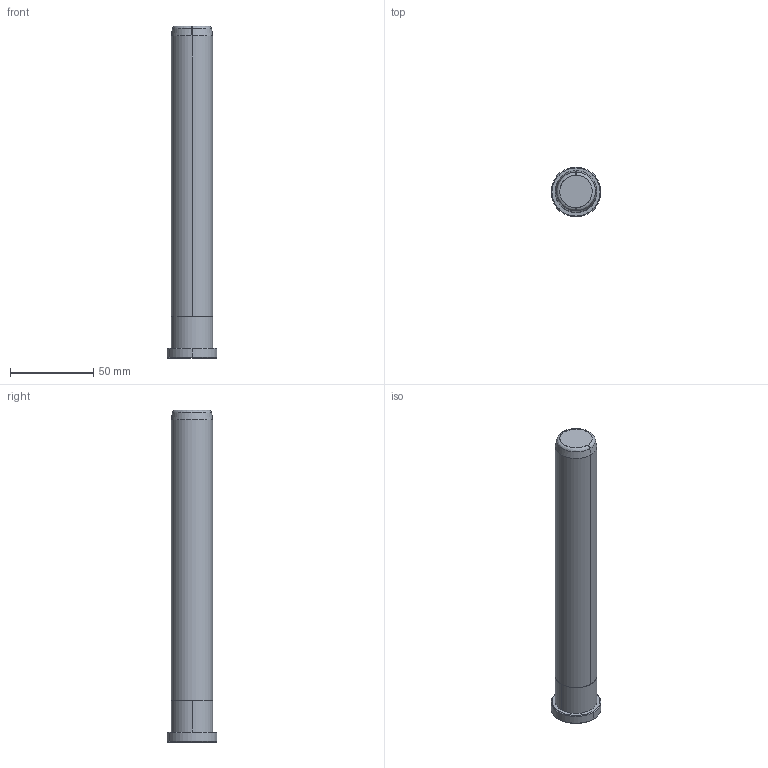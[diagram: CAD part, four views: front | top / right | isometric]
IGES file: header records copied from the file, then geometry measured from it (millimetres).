
Start section: START RECORD GO HERE.
Global section: file name: B85825200.igs; native system: DASSAULT SYSTEMES CATIA V5 R20 - www.3ds.com; preprocessor: CATIA Version 5 Release 20 ; author: Utente; organization: NB04-ASUS; date: 20200419.205213; units: millimetre
Bounding box: 30 x 30 x 200 mm (x, y, z)
Surface area: 17026.8 mm2 (no closed solid volume)
Topology: 0 solids, 0 shells, 20 faces, 80 edges, 80 vertices
Faces by surface type: revolution 16, plane 4
